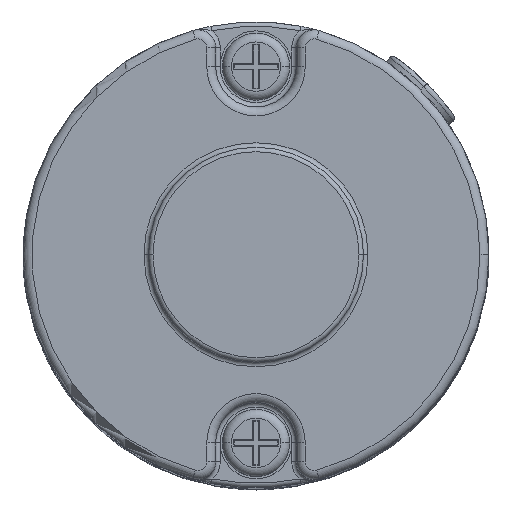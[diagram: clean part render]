
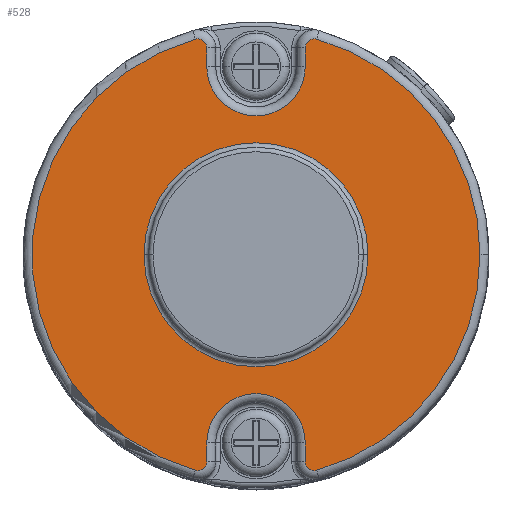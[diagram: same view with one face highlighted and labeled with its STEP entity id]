
A CAD part, top view. The second image highlights one B-rep face of the part: STEP entity #528.
In plain terms, the highlighted planar face has unit normal (0, 0, 1).
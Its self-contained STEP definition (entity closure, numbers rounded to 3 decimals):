
#33 = AXIS2_PLACEMENT_3D ( 'NONE', #325, #4090, #3178 ) ;
#117 = DIRECTION ( 'NONE',  ( 1., 0., 0. ) ) ;
#199 = ORIENTED_EDGE ( 'NONE', *, *, #4775, .T. ) ;
#200 = DIRECTION ( 'NONE',  ( 0., 0., -1. ) ) ;
#245 = DIRECTION ( 'NONE',  ( 1., 0., 0. ) ) ;
#285 = CARTESIAN_POINT ( 'NONE',  ( -5.5, -21., 13. ) ) ;
#295 = CARTESIAN_POINT ( 'NONE',  ( 6.771, 24.066, 13. ) ) ;
#325 = CARTESIAN_POINT ( 'NONE',  ( 0., 0., 13. ) ) ;
#377 = LINE ( 'NONE', #285, #7502 ) ;
#378 = EDGE_CURVE ( 'NONE', #4207, #4532, #4423, .T. ) ;
#423 = VERTEX_POINT ( 'NONE', #7155 ) ;
#456 = ORIENTED_EDGE ( 'NONE', *, *, #8516, .T. ) ;
#507 = LINE ( 'NONE', #7759, #4048 ) ;
#522 = AXIS2_PLACEMENT_3D ( 'NONE', #5359, #8464, #3968 ) ;
#528 = ADVANCED_FACE ( 'NONE', ( #2302, #6077 ), #8362, .T. ) ;
#590 = CARTESIAN_POINT ( 'NONE',  ( -6.771, 24.066, 13. ) ) ;
#772 = VERTEX_POINT ( 'NONE', #6533 ) ;
#831 = EDGE_CURVE ( 'NONE', #4532, #8421, #2894, .T. ) ;
#1014 = DIRECTION ( 'NONE',  ( 0., 0., 1. ) ) ;
#1082 = ORIENTED_EDGE ( 'NONE', *, *, #4427, .T. ) ;
#1157 = CARTESIAN_POINT ( 'NONE',  ( 12.5, 0., 13. ) ) ;
#1214 = DIRECTION ( 'NONE',  ( 0., -1., 0. ) ) ;
#1281 = CARTESIAN_POINT ( 'NONE',  ( 0., 0., 13. ) ) ;
#1385 = DIRECTION ( 'NONE',  ( 0., -1., 0. ) ) ;
#1445 = CIRCLE ( 'NONE', #6499, 1. ) ;
#1630 = VECTOR ( 'NONE', #7172, 1000. ) ;
#1734 = EDGE_CURVE ( 'NONE', #5993, #3249, #2770, .T. ) ;
#1745 = AXIS2_PLACEMENT_3D ( 'NONE', #5171, #8848, #8131 ) ;
#1766 = CARTESIAN_POINT ( 'NONE',  ( 0., 0., 13. ) ) ;
#1872 = EDGE_CURVE ( 'NONE', #8421, #772, #377, .T. ) ;
#1940 = CARTESIAN_POINT ( 'NONE',  ( 5.5, 21., 13. ) ) ;
#1949 = DIRECTION ( 'NONE',  ( 0., 0., 1. ) ) ;
#2038 = LINE ( 'NONE', #7073, #1630 ) ;
#2069 = EDGE_CURVE ( 'NONE', #423, #5671, #9024, .T. ) ;
#2101 = CARTESIAN_POINT ( 'NONE',  ( 5.5, 23.103, 13. ) ) ;
#2225 = DIRECTION ( 'NONE',  ( 0., 0., -1. ) ) ;
#2302 = FACE_BOUND ( 'NONE', #3024, .T. ) ;
#2346 = CARTESIAN_POINT ( 'NONE',  ( -6.5, 23.103, 13. ) ) ;
#2349 = ORIENTED_EDGE ( 'NONE', *, *, #1734, .T. ) ;
#2525 = VERTEX_POINT ( 'NONE', #7187 ) ;
#2571 = DIRECTION ( 'NONE',  ( 0., 0., 1. ) ) ;
#2666 = ORIENTED_EDGE ( 'NONE', *, *, #6299, .T. ) ;
#2682 = DIRECTION ( 'NONE',  ( 0., 0., 1. ) ) ;
#2770 = LINE ( 'NONE', #5780, #3825 ) ;
#2894 = CIRCLE ( 'NONE', #5650, 1. ) ;
#3024 = EDGE_LOOP ( 'NONE', ( #8284, #199 ) ) ;
#3122 = CIRCLE ( 'NONE', #1745, 25. ) ;
#3148 = EDGE_CURVE ( 'NONE', #8124, #8997, #5815, .T. ) ;
#3178 = DIRECTION ( 'NONE',  ( 1., 0., 0. ) ) ;
#3249 = VERTEX_POINT ( 'NONE', #1940 ) ;
#3344 = ORIENTED_EDGE ( 'NONE', *, *, #2069, .T. ) ;
#3396 = CARTESIAN_POINT ( 'NONE',  ( 0., 0., 13. ) ) ;
#3422 = AXIS2_PLACEMENT_3D ( 'NONE', #2346, #4591, #117 ) ;
#3601 = DIRECTION ( 'NONE',  ( 0., 0., 1. ) ) ;
#3634 = ORIENTED_EDGE ( 'NONE', *, *, #7243, .T. ) ;
#3759 = CIRCLE ( 'NONE', #6823, 5.5 ) ;
#3760 = CARTESIAN_POINT ( 'NONE',  ( -5.5, 21., 13. ) ) ;
#3825 = VECTOR ( 'NONE', #1385, 1000. ) ;
#3907 = DIRECTION ( 'NONE',  ( 0., 1., 0. ) ) ;
#3910 = CARTESIAN_POINT ( 'NONE',  ( -6.771, -24.066, 13. ) ) ;
#3968 = DIRECTION ( 'NONE',  ( 1., 0., 0. ) ) ;
#4048 = VECTOR ( 'NONE', #1214, 1000. ) ;
#4090 = DIRECTION ( 'NONE',  ( 0., 0., -1. ) ) ;
#4173 = DIRECTION ( 'NONE',  ( 1., 0., 0. ) ) ;
#4207 = VERTEX_POINT ( 'NONE', #590 ) ;
#4230 = CARTESIAN_POINT ( 'NONE',  ( 5.5, -23.103, 13. ) ) ;
#4423 = CIRCLE ( 'NONE', #5793, 25. ) ;
#4427 = EDGE_CURVE ( 'NONE', #3249, #4834, #5546, .T. ) ;
#4532 = VERTEX_POINT ( 'NONE', #3910 ) ;
#4591 = DIRECTION ( 'NONE',  ( 0., 0., 1. ) ) ;
#4702 = ORIENTED_EDGE ( 'NONE', *, *, #7333, .T. ) ;
#4773 = ORIENTED_EDGE ( 'NONE', *, *, #7605, .T. ) ;
#4775 = EDGE_CURVE ( 'NONE', #8997, #8124, #6641, .T. ) ;
#4834 = VERTEX_POINT ( 'NONE', #3760 ) ;
#5108 = DIRECTION ( 'NONE',  ( 1., 0., 0. ) ) ;
#5170 = EDGE_CURVE ( 'NONE', #4834, #2525, #2038, .T. ) ;
#5171 = CARTESIAN_POINT ( 'NONE',  ( 0., 0., 13. ) ) ;
#5258 = ORIENTED_EDGE ( 'NONE', *, *, #378, .T. ) ;
#5271 = CIRCLE ( 'NONE', #3422, 1. ) ;
#5359 = CARTESIAN_POINT ( 'NONE',  ( 6.5, 23.103, 13. ) ) ;
#5442 = CARTESIAN_POINT ( 'NONE',  ( 6.5, -23.103, 13. ) ) ;
#5546 = CIRCLE ( 'NONE', #5858, 5.5 ) ;
#5650 = AXIS2_PLACEMENT_3D ( 'NONE', #7258, #3601, #9430 ) ;
#5671 = VERTEX_POINT ( 'NONE', #6764 ) ;
#5780 = CARTESIAN_POINT ( 'NONE',  ( 5.5, 21., 13. ) ) ;
#5793 = AXIS2_PLACEMENT_3D ( 'NONE', #3396, #2682, #4173 ) ;
#5815 = CIRCLE ( 'NONE', #33, 12.5 ) ;
#5858 = AXIS2_PLACEMENT_3D ( 'NONE', #6757, #200, #245 ) ;
#5993 = VERTEX_POINT ( 'NONE', #2101 ) ;
#6004 = DIRECTION ( 'NONE',  ( 0., 0., -1. ) ) ;
#6077 = FACE_OUTER_BOUND ( 'NONE', #7151, .T. ) ;
#6273 = ORIENTED_EDGE ( 'NONE', *, *, #7253, .T. ) ;
#6299 = EDGE_CURVE ( 'NONE', #7346, #5993, #7536, .T. ) ;
#6499 = AXIS2_PLACEMENT_3D ( 'NONE', #5442, #1014, #6852 ) ;
#6533 = CARTESIAN_POINT ( 'NONE',  ( -5.5, -21., 13. ) ) ;
#6545 = CARTESIAN_POINT ( 'NONE',  ( 0., 0., 13. ) ) ;
#6596 = AXIS2_PLACEMENT_3D ( 'NONE', #1281, #1949, #7075 ) ;
#6641 = CIRCLE ( 'NONE', #8005, 12.5 ) ;
#6757 = CARTESIAN_POINT ( 'NONE',  ( 0., 21., 13. ) ) ;
#6764 = CARTESIAN_POINT ( 'NONE',  ( 25., 0., 13. ) ) ;
#6823 = AXIS2_PLACEMENT_3D ( 'NONE', #7309, #2225, #7214 ) ;
#6852 = DIRECTION ( 'NONE',  ( 1., 0., 0. ) ) ;
#6943 = VERTEX_POINT ( 'NONE', #4230 ) ;
#7073 = CARTESIAN_POINT ( 'NONE',  ( -5.5, 23.103, 13. ) ) ;
#7075 = DIRECTION ( 'NONE',  ( 1., 0., 0. ) ) ;
#7151 = EDGE_LOOP ( 'NONE', ( #4773, #4702, #3344, #6273, #2666, #2349, #1082, #9349, #3634, #5258, #7289, #9206, #456 ) ) ;
#7155 = CARTESIAN_POINT ( 'NONE',  ( 6.771, -24.066, 13. ) ) ;
#7172 = DIRECTION ( 'NONE',  ( 0., 1., 0. ) ) ;
#7187 = CARTESIAN_POINT ( 'NONE',  ( -5.5, 23.103, 13. ) ) ;
#7206 = VERTEX_POINT ( 'NONE', #8081 ) ;
#7214 = DIRECTION ( 'NONE',  ( 1., 0., 0. ) ) ;
#7243 = EDGE_CURVE ( 'NONE', #2525, #4207, #5271, .T. ) ;
#7253 = EDGE_CURVE ( 'NONE', #5671, #7346, #3122, .T. ) ;
#7258 = CARTESIAN_POINT ( 'NONE',  ( -6.5, -23.103, 13. ) ) ;
#7289 = ORIENTED_EDGE ( 'NONE', *, *, #831, .T. ) ;
#7309 = CARTESIAN_POINT ( 'NONE',  ( 0., -21., 13. ) ) ;
#7333 = EDGE_CURVE ( 'NONE', #6943, #423, #1445, .T. ) ;
#7341 = AXIS2_PLACEMENT_3D ( 'NONE', #1766, #2571, #5108 ) ;
#7346 = VERTEX_POINT ( 'NONE', #295 ) ;
#7502 = VECTOR ( 'NONE', #3907, 1000. ) ;
#7536 = CIRCLE ( 'NONE', #522, 1. ) ;
#7605 = EDGE_CURVE ( 'NONE', #7206, #6943, #507, .T. ) ;
#7759 = CARTESIAN_POINT ( 'NONE',  ( 5.5, -23.103, 13. ) ) ;
#7864 = CARTESIAN_POINT ( 'NONE',  ( -12.5, 0., 13. ) ) ;
#8005 = AXIS2_PLACEMENT_3D ( 'NONE', #6545, #6004, #8830 ) ;
#8081 = CARTESIAN_POINT ( 'NONE',  ( 5.5, -21., 13. ) ) ;
#8124 = VERTEX_POINT ( 'NONE', #1157 ) ;
#8131 = DIRECTION ( 'NONE',  ( 1., 0., 0. ) ) ;
#8284 = ORIENTED_EDGE ( 'NONE', *, *, #3148, .T. ) ;
#8362 = PLANE ( 'NONE',  #7341 ) ;
#8421 = VERTEX_POINT ( 'NONE', #9296 ) ;
#8464 = DIRECTION ( 'NONE',  ( 0., 0., 1. ) ) ;
#8516 = EDGE_CURVE ( 'NONE', #772, #7206, #3759, .T. ) ;
#8830 = DIRECTION ( 'NONE',  ( 1., 0., 0. ) ) ;
#8848 = DIRECTION ( 'NONE',  ( 0., 0., 1. ) ) ;
#8997 = VERTEX_POINT ( 'NONE', #7864 ) ;
#9024 = CIRCLE ( 'NONE', #6596, 25. ) ;
#9206 = ORIENTED_EDGE ( 'NONE', *, *, #1872, .T. ) ;
#9296 = CARTESIAN_POINT ( 'NONE',  ( -5.5, -23.103, 13. ) ) ;
#9349 = ORIENTED_EDGE ( 'NONE', *, *, #5170, .T. ) ;
#9430 = DIRECTION ( 'NONE',  ( 1., 0., 0. ) ) ;
